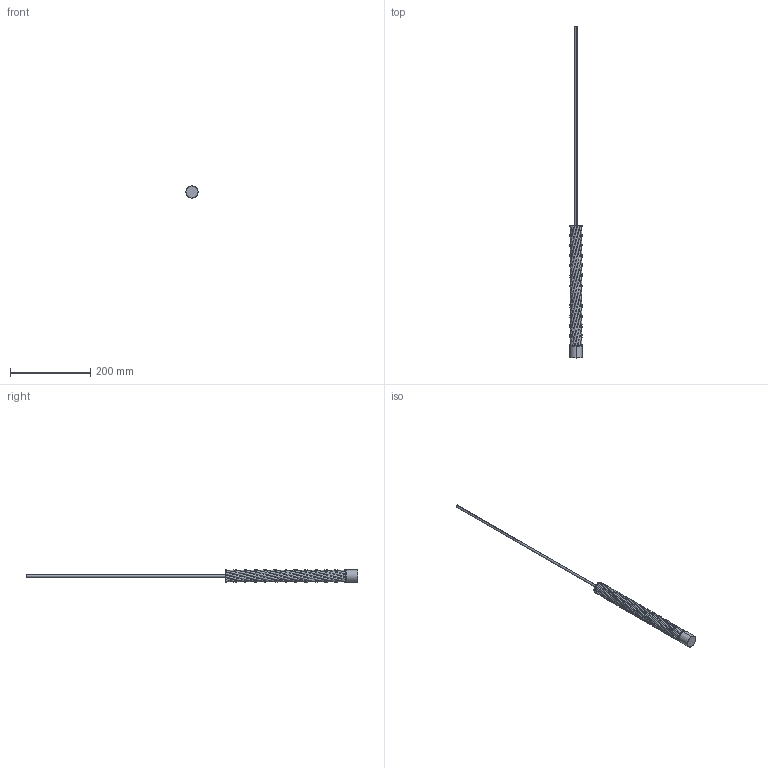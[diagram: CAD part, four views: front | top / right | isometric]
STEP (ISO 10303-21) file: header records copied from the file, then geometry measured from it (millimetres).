
FILE_DESCRIPTION (( 'STEP AP203' ), '1' );
FILE_NAME ('tob twist 30.STEP', '2022-11-21T00:09:49', ( '' ), ( '' ), 'SwSTEP 2.0', 'SolidWorks 2014', '' );
FILE_SCHEMA (( 'CONFIG_CONTROL_DESIGN' ));
Length unit declared in the file: millimetre
Products named in the file (1): tob twist 30
Bounding box: 30 x 826 x 30 mm (x, y, z)
Volume: 202794.6 mm3; surface area: 54598.4 mm2
Topology: 3 solids, 3 shells, 275 faces, 734 edges, 466 vertices
Faces by surface type: bspline 144, cylinder 63, torus 37, plane 31
Entity records: 24422 total; most frequent: CARTESIAN_POINT 18584, ORIENTED_EDGE 1468, DIRECTION 849, EDGE_CURVE 734, VERTEX_POINT 466, B_SPLINE_CURVE_WITH_KNOTS 374, AXIS2_PLACEMENT_3D 357, EDGE_LOOP 278
